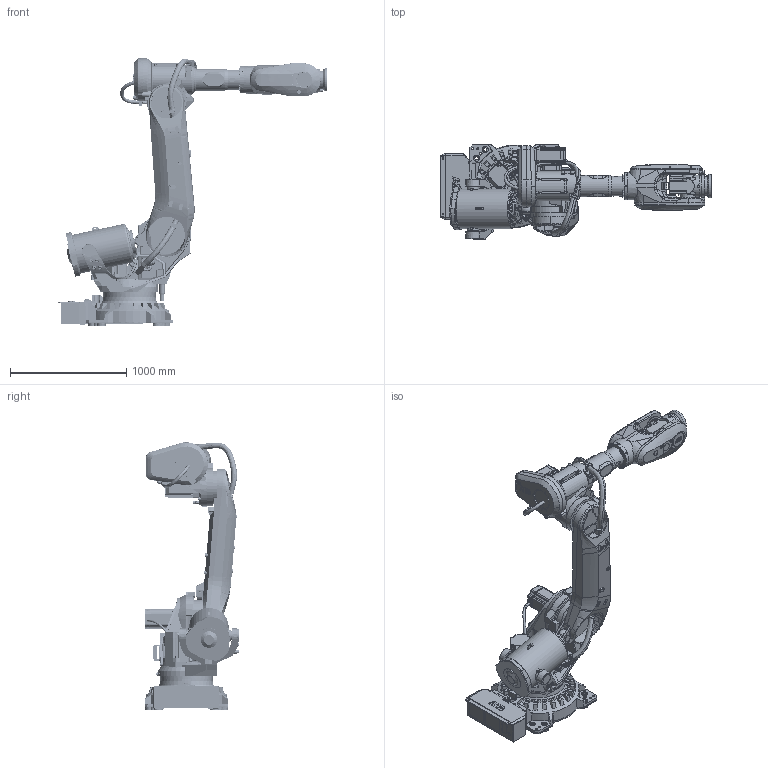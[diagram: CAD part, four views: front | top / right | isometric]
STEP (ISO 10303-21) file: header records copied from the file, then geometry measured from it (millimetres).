
FILE_DESCRIPTION(/* description */ (''),/* implementation_level */ '2;1');
FILE_NAME(/* name */ 'E:\组装完成的图纸\IRB 6700\IRB 6700-235-2.65\IRB 6700-235-2.65.stp',/* time_stamp */ '2023-11-04T19:42:59+08:00',/* author */ ('Administrator'),/* organization */ (''),/* preprocessor_version */ 'ST-DEVELOPER v16.5',/* originating_system */ 'Autodesk Inventor 2017',/* authorisation */ '');
FILE_SCHEMA (('AUTOMOTIVE_DESIGN { 1 0 10303 214 3 1 1 }'));
Products named in the file (16): 部件4; IRB6700_235-265_IRC5_rev00_LOGO1_CAD; IRB6700_235-265_IRC5_rev00_LOGO2_CAD; IRB6700_235-265_IRC5_rev00_LOGO3_CAD; IRB6700_235-265_IRC5_rev01_BASE_CAD; IRB6700_235-265_IRC5_rev01_LINK02m_CABLE; IRB6700_235-265_IRC5_rev02_LINK01m_CABLE; IRB6700_235-265_IRC5_rev02_LINK03m_CABLE; IRB6700_235-265_IRC5_rev02_LINK06_CAD; IRB6700_235-265_IRC5_rev03_LINK02_CAD; IRB6700_235-265_IRC5_rev03_LINK04_CAD; IRB6700_235-265_IRC5_rev03_ROD_CAD; IRB6700_235-265_IRC5_rev04_LINK05_CAD; IRB6700_235-265_IRC5_rev05_LINK03_CAD; IRB6700_235-265_IRC5_rev06_CYLINDER_CAD; IRB6700_235-265_IRC5_rev06_LINK01_CAD
Assembly tree (15 placements, depth 2):
  部件4
    IRB6700_235-265_IRC5_rev00_LOGO1_CAD
    IRB6700_235-265_IRC5_rev00_LOGO2_CAD
    IRB6700_235-265_IRC5_rev00_LOGO3_CAD
    IRB6700_235-265_IRC5_rev01_BASE_CAD
    IRB6700_235-265_IRC5_rev01_LINK02m_CABLE
    IRB6700_235-265_IRC5_rev02_LINK01m_CABLE
    IRB6700_235-265_IRC5_rev02_LINK03m_CABLE
    IRB6700_235-265_IRC5_rev02_LINK06_CAD
    IRB6700_235-265_IRC5_rev03_LINK02_CAD
    IRB6700_235-265_IRC5_rev03_LINK04_CAD
    IRB6700_235-265_IRC5_rev03_ROD_CAD
    IRB6700_235-265_IRC5_rev04_LINK05_CAD
    IRB6700_235-265_IRC5_rev05_LINK03_CAD
    IRB6700_235-265_IRC5_rev06_CYLINDER_CAD
    IRB6700_235-265_IRC5_rev06_LINK01_CAD
Bounding box: 2329.5 x 816 x 2300.25 mm (x, y, z)
Volume: 438141691.7 mm3; surface area: 12946441.6 mm2
Topology: 16 solids, 18 shells, 5409 faces, 14362 edges, 9304 vertices
Faces by surface type: plane 3328, cylinder 1081, cone 523, bspline 456, torus 16, sphere 5
Full cylindrical faces by diameter (mm): 5 x23, 6 x14, 6.5 x4, 6.6 x9, 6.8 x12, 7 x16, 7.1 x2, 7.5 x8, 8 x2, 8.3 x4, 8.5 x4, 8.6 x4, 8.8 x4, 9 x5, 10 x4, 10.2 x37, 11.05 x4, 12 x1, 12.5 x2, 13 x1, 14 x6, 14.385 x3, 16 x1, 16.3 x1, 17.5 x8, 17.583 x1, 17.6 x1, 17.608 x1, 18 x15, 18.2 x4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
Entity records: 232901 total; most frequent: CARTESIAN_POINT 102941, ORIENTED_EDGE 27132, DIRECTION 25238, EDGE_CURVE 13566, VERTEX_POINT 9087, AXIS2_PLACEMENT_3D 8510, LINE 8218, VECTOR 8218
